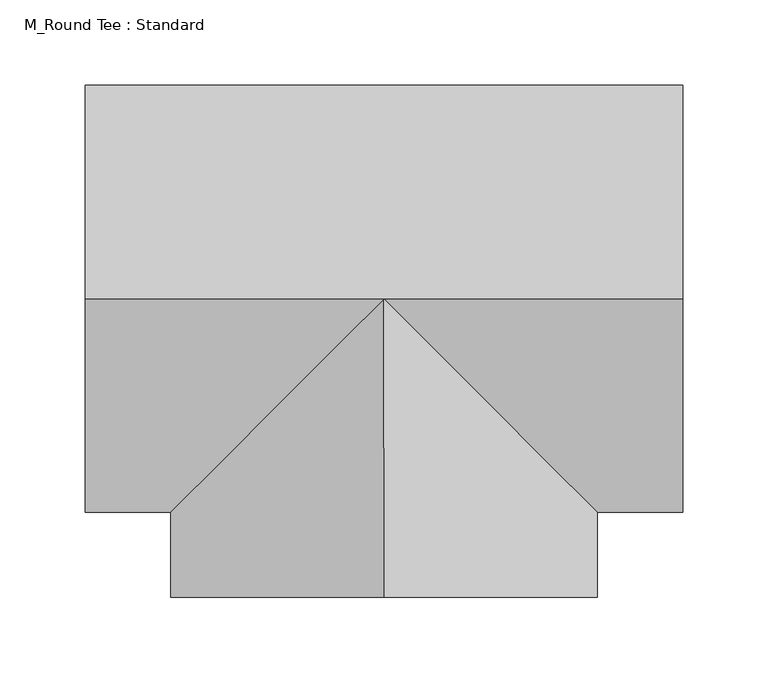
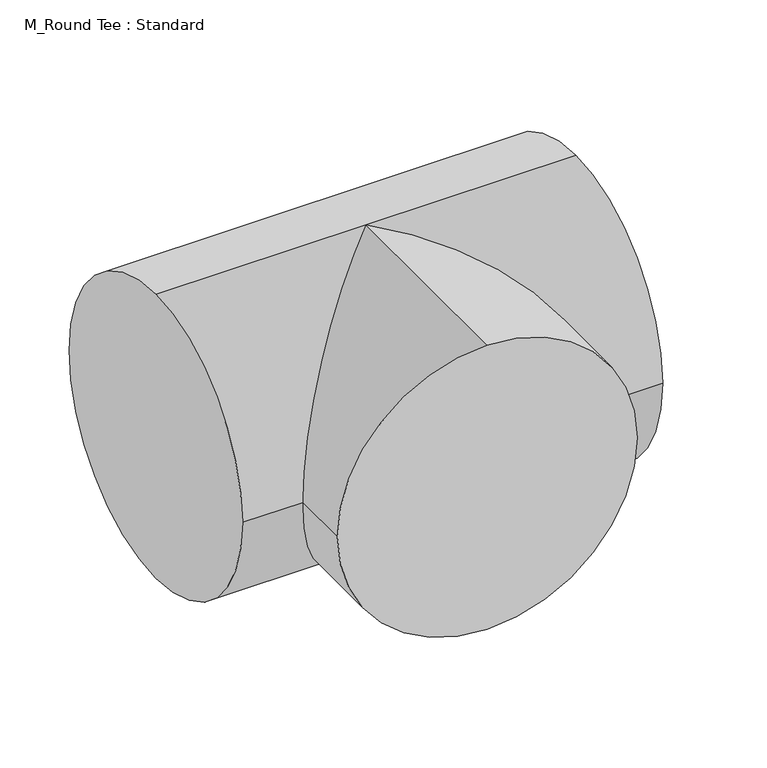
"""IFC4 building model written with IfcOpenShell, lengths in millimetres: duct fitting geometry, M_Round Tee : Standard."""

from ifc_helpers import new_model, si_unit, frame, origin, place, context, project, spatial, circle_curve, ellipse_curve, source, transform, mapped, element, save
from ifc_brep_helpers import plane_surface, cylinder_surface, advanced_brep


def m_round_tee_standard_11950e83(model_context):
    return source(origin(), model_context, "Body", "AdvancedBrep", [
        advanced_brep(
        [(-175.0, 0.0, 125.0), (-175.0, 125.0, 0.0), (-175.0, 0.0, -125.0), (-175.0, -125.0, 0.0), (175.0, 0.0, 125.0), (175.0, -125.0, 0.0), (175.0, 0.0, -125.0), (175.0, 125.0, 0.0), (0.0, 0.0, 125.0), (0.0, 0.0, -125.0), (-125.0, -125.0, 0.0), (125.0, -125.0, 0.0), (0.0, -175.0, 125.0), (-125.0, -175.0, 0.0), (0.0, -175.0, -125.0), (125.0, -175.0, 0.0)],
        [
            (0, 1, circle_curve(frame((-175.0, 0.0, 0.0), z_axis=(-1.0, 0.0, 0.0), x_axis=(0.0, 1.0, 0.0)), 125.0)),
            (1, 2, circle_curve(frame((-175.0, 0.0, 0.0), z_axis=(-1.0, 0.0, 0.0), x_axis=(0.0, 1.0, 0.0)), 125.0)),
            (2, 3, circle_curve(frame((-175.0, 0.0, 0.0), z_axis=(-1.0, 0.0, 0.0), x_axis=(0.0, 1.0, 0.0)), 125.0)),
            (3, 0, circle_curve(frame((-175.0, 0.0, 0.0), z_axis=(-1.0, 0.0, 0.0), x_axis=(0.0, 1.0, 0.0)), 125.0)),
            (4, 5, circle_curve(frame((175.0, 0.0, 0.0), z_axis=(1.0, 0.0, 0.0), x_axis=(0.0, 1.0, 0.0)), 125.0)),
            (5, 6, circle_curve(frame((175.0, 0.0, 0.0), z_axis=(1.0, 0.0, 0.0), x_axis=(0.0, 1.0, 0.0)), 125.0)),
            (6, 7, circle_curve(frame((175.0, 0.0, 0.0), z_axis=(1.0, 0.0, 0.0), x_axis=(0.0, 1.0, 0.0)), 125.0)),
            (7, 4, circle_curve(frame((175.0, 0.0, 0.0), z_axis=(1.0, 0.0, 0.0), x_axis=(0.0, 1.0, 0.0)), 125.0)),
            (0, 8),
            (8, 4),
            (7, 1),
            (6, 9),
            (9, 2),
            (9, 10, ellipse_curve(frame((0.0, 0.0, 0.0), z_axis=(-0.7071067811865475, 0.7071067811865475, 0.0), x_axis=(-0.7071067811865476, -0.7071067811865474, 0.0)), 176.7766953, 125.0)),
            (10, 3),
            (5, 11),
            (11, 9, ellipse_curve(frame((0.0, 0.0, 0.0), z_axis=(0.7071067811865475, 0.7071067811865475, 0.0), x_axis=(-0.7071067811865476, 0.7071067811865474, 0.0)), 176.7766953, 125.0)),
            (10, 8, ellipse_curve(frame((0.0, 0.0, 0.0), z_axis=(-0.7071067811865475, 0.7071067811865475, 0.0), x_axis=(-0.7071067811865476, -0.7071067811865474, 0.0)), 176.7766953, 125.0)),
            (8, 11, ellipse_curve(frame((0.0, 0.0, 0.0), z_axis=(0.7071067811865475, 0.7071067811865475, 0.0), x_axis=(-0.7071067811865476, 0.7071067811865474, 0.0)), 176.7766953, 125.0)),
            (12, 13, circle_curve(frame((0.0, -175.0, 0.0), z_axis=(0.0, -1.0, 0.0), x_axis=(1.0, 0.0, 0.0)), 125.0)),
            (13, 14, circle_curve(frame((0.0, -175.0, 0.0), z_axis=(0.0, -1.0, 0.0), x_axis=(1.0, 0.0, 0.0)), 125.0)),
            (14, 15, circle_curve(frame((0.0, -175.0, 0.0), z_axis=(0.0, -1.0, 0.0), x_axis=(1.0, 0.0, 0.0)), 125.0)),
            (15, 12, circle_curve(frame((0.0, -175.0, 0.0), z_axis=(0.0, -1.0, 0.0), x_axis=(1.0, 0.0, 0.0)), 125.0)),
            (15, 11),
            (8, 12),
            (14, 9),
            (13, 10),
        ],
        [
            plane_surface(frame((-175.0, 0.0, 0.0), z_axis=(-1.0, 0.0, 0.0), x_axis=(0.0, 0.0, 1.0))),
            plane_surface(frame((175.0, 0.0, 0.0), z_axis=(1.0, 0.0, 0.0), x_axis=(0.0, 0.0, 1.0))),
            cylinder_surface(frame((-175.0, 0.0, 0.0), z_axis=(-1.0, 0.0, 0.0), x_axis=(0.0, 1.0, 0.0)), 125.0),
            plane_surface(frame((0.0, -175.0, 0.0), z_axis=(0.0, -1.0, 0.0), x_axis=(0.0, 0.0, 1.0))),
            cylinder_surface(frame((0.0, 0.0, 0.0), z_axis=(0.0, 1.0, 0.0), x_axis=(1.0, 0.0, 0.0)), 125.0),
        ],
        [
            (0, [[1, 2, 3, 4]]),
            (1, [[5, 6, 7, 8]]),
            (2, [[-1, 9, 10, -8, 11]]),
            (2, [[-2, -11, -7, 12, 13]]),
            (2, [[-3, -13, 14, 15]]),
            (2, [[-6, 16, 17, -12]]),
            (2, [[-4, -15, 18, -9]]),
            (2, [[-5, -10, 19, -16]]),
            (3, [[20, 21, 22, 23]]),
            (4, [[-23, 24, -19, 25]]),
            (4, [[-22, 26, -17, -24]]),
            (4, [[-21, 27, -14, -26]]),
            (4, [[-20, -25, -18, -27]]),
        ],
    ),
        advanced_brep(
        [(-175.0, 0.0, 125.0), (-175.0, 125.0, 0.0), (-175.0, 0.0, -125.0), (-175.0, -125.0, 0.0), (175.0, 0.0, 125.0), (175.0, -125.0, 0.0), (175.0, 0.0, -125.0), (175.0, 125.0, 0.0), (0.0, 0.0, 125.0), (0.0, 0.0, -125.0), (-125.0, -125.0, 0.0), (125.0, -125.0, 0.0), (0.0, -175.0, 125.0), (-125.0, -175.0, 0.0), (0.0, -175.0, -125.0), (125.0, -175.0, 0.0)],
        [
            (0, 1, circle_curve(frame((-175.0, 0.0, 0.0), z_axis=(-1.0, 0.0, 0.0), x_axis=(0.0, 1.0, 0.0)), 125.0)),
            (1, 2, circle_curve(frame((-175.0, 0.0, 0.0), z_axis=(-1.0, 0.0, 0.0), x_axis=(0.0, 1.0, 0.0)), 125.0)),
            (2, 3, circle_curve(frame((-175.0, 0.0, 0.0), z_axis=(-1.0, 0.0, 0.0), x_axis=(0.0, 1.0, 0.0)), 125.0)),
            (3, 0, circle_curve(frame((-175.0, 0.0, 0.0), z_axis=(-1.0, 0.0, 0.0), x_axis=(0.0, 1.0, 0.0)), 125.0)),
            (4, 5, circle_curve(frame((175.0, 0.0, 0.0), z_axis=(1.0, 0.0, 0.0), x_axis=(0.0, 1.0, 0.0)), 125.0)),
            (5, 6, circle_curve(frame((175.0, 0.0, 0.0), z_axis=(1.0, 0.0, 0.0), x_axis=(0.0, 1.0, 0.0)), 125.0)),
            (6, 7, circle_curve(frame((175.0, 0.0, 0.0), z_axis=(1.0, 0.0, 0.0), x_axis=(0.0, 1.0, 0.0)), 125.0)),
            (7, 4, circle_curve(frame((175.0, 0.0, 0.0), z_axis=(1.0, 0.0, 0.0), x_axis=(0.0, 1.0, 0.0)), 125.0)),
            (0, 8),
            (8, 4),
            (7, 1),
            (6, 9),
            (9, 2),
            (9, 10, ellipse_curve(frame((0.0, 0.0, 0.0), z_axis=(-0.7071067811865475, 0.7071067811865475, 0.0), x_axis=(-0.7071067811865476, -0.7071067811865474, 0.0)), 176.7766953, 125.0)),
            (10, 3),
            (5, 11),
            (11, 9, ellipse_curve(frame((0.0, 0.0, 0.0), z_axis=(0.7071067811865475, 0.7071067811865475, 0.0), x_axis=(-0.7071067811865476, 0.7071067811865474, 0.0)), 176.7766953, 125.0)),
            (10, 8, ellipse_curve(frame((0.0, 0.0, 0.0), z_axis=(-0.7071067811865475, 0.7071067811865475, 0.0), x_axis=(-0.7071067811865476, -0.7071067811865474, 0.0)), 176.7766953, 125.0)),
            (8, 11, ellipse_curve(frame((0.0, 0.0, 0.0), z_axis=(0.7071067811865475, 0.7071067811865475, 0.0), x_axis=(-0.7071067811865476, 0.7071067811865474, 0.0)), 176.7766953, 125.0)),
            (12, 13, circle_curve(frame((0.0, -175.0, 0.0), z_axis=(0.0, -1.0, 0.0), x_axis=(1.0, 0.0, 0.0)), 125.0)),
            (13, 14, circle_curve(frame((0.0, -175.0, 0.0), z_axis=(0.0, -1.0, 0.0), x_axis=(1.0, 0.0, 0.0)), 125.0)),
            (14, 15, circle_curve(frame((0.0, -175.0, 0.0), z_axis=(0.0, -1.0, 0.0), x_axis=(1.0, 0.0, 0.0)), 125.0)),
            (15, 12, circle_curve(frame((0.0, -175.0, 0.0), z_axis=(0.0, -1.0, 0.0), x_axis=(1.0, 0.0, 0.0)), 125.0)),
            (15, 11),
            (8, 12),
            (14, 9),
            (13, 10),
        ],
        [
            plane_surface(frame((-175.0, 0.0, 0.0), z_axis=(-1.0, 0.0, 0.0), x_axis=(0.0, 0.0, 1.0))),
            plane_surface(frame((175.0, 0.0, 0.0), z_axis=(1.0, 0.0, 0.0), x_axis=(0.0, 0.0, 1.0))),
            cylinder_surface(frame((-175.0, 0.0, 0.0), z_axis=(-1.0, 0.0, 0.0), x_axis=(0.0, 1.0, 0.0)), 125.0),
            plane_surface(frame((0.0, -175.0, 0.0), z_axis=(0.0, -1.0, 0.0), x_axis=(0.0, 0.0, 1.0))),
            cylinder_surface(frame((0.0, 0.0, 0.0), z_axis=(0.0, 1.0, 0.0), x_axis=(1.0, 0.0, 0.0)), 125.0),
        ],
        [
            (0, [[1, 2, 3, 4]]),
            (1, [[5, 6, 7, 8]]),
            (2, [[-1, 9, 10, -8, 11]]),
            (2, [[-2, -11, -7, 12, 13]]),
            (2, [[-3, -13, 14, 15]]),
            (2, [[-6, 16, 17, -12]]),
            (2, [[-4, -15, 18, -9]]),
            (2, [[-5, -10, 19, -16]]),
            (3, [[20, 21, 22, 23]]),
            (4, [[-23, 24, -19, 25]]),
            (4, [[-22, 26, -17, -24]]),
            (4, [[-21, 27, -14, -26]]),
            (4, [[-20, -25, -18, -27]]),
        ],
    ),
        advanced_brep(
        [(0.0, -175.0, 125.0), (-125.0, -175.0, 0.0), (0.0, -175.0, -125.0), (125.0, -175.0, 0.0), (125.0, -125.0, 0.0), (0.0, 0.0, 125.0), (0.0, 0.0, -125.0), (-125.0, -125.0, 0.0), (-175.0, 0.0, 125.0), (-175.0, 125.0, 0.0), (-175.0, 0.0, -125.0), (-175.0, -125.0, 0.0), (175.0, 0.0, 125.0), (175.0, -125.0, 0.0), (175.0, 0.0, -125.0), (175.0, 125.0, 0.0)],
        [
            (0, 1, circle_curve(frame((0.0, -175.0, 0.0), z_axis=(0.0, -1.0, 0.0), x_axis=(1.0, 0.0, 0.0)), 125.0)),
            (1, 2, circle_curve(frame((0.0, -175.0, 0.0), z_axis=(0.0, -1.0, 0.0), x_axis=(1.0, 0.0, 0.0)), 125.0)),
            (2, 3, circle_curve(frame((0.0, -175.0, 0.0), z_axis=(0.0, -1.0, 0.0), x_axis=(1.0, 0.0, 0.0)), 125.0)),
            (3, 0, circle_curve(frame((0.0, -175.0, 0.0), z_axis=(0.0, -1.0, 0.0), x_axis=(1.0, 0.0, 0.0)), 125.0)),
            (3, 4),
            (4, 5, ellipse_curve(frame((0.0, 0.0, 0.0), z_axis=(-0.7071067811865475, -0.7071067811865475, 0.0), x_axis=(-0.7071067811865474, 0.7071067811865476, 0.0)), 176.7766953, 125.0)),
            (5, 0),
            (2, 6),
            (6, 4, ellipse_curve(frame((0.0, 0.0, 0.0), z_axis=(-0.7071067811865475, -0.7071067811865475, 0.0), x_axis=(-0.7071067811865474, 0.7071067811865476, 0.0)), 176.7766953, 125.0)),
            (1, 7),
            (7, 6, ellipse_curve(frame((0.0, 0.0, 0.0), z_axis=(0.7071067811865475, -0.7071067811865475, 0.0), x_axis=(0.7071067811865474, 0.7071067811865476, 0.0)), 176.7766953, 125.0)),
            (5, 7, ellipse_curve(frame((0.0, 0.0, 0.0), z_axis=(0.7071067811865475, -0.7071067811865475, 0.0), x_axis=(0.7071067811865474, 0.7071067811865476, 0.0)), 176.7766953, 125.0)),
            (8, 9, circle_curve(frame((-175.0, 0.0, 0.0), z_axis=(-1.0, 0.0, 0.0), x_axis=(0.0, 1.0, 0.0)), 125.0)),
            (9, 10, circle_curve(frame((-175.0, 0.0, 0.0), z_axis=(-1.0, 0.0, 0.0), x_axis=(0.0, 1.0, 0.0)), 125.0)),
            (10, 11, circle_curve(frame((-175.0, 0.0, 0.0), z_axis=(-1.0, 0.0, 0.0), x_axis=(0.0, 1.0, 0.0)), 125.0)),
            (11, 8, circle_curve(frame((-175.0, 0.0, 0.0), z_axis=(-1.0, 0.0, 0.0), x_axis=(0.0, 1.0, 0.0)), 125.0)),
            (12, 13, circle_curve(frame((175.0, 0.0, 0.0), z_axis=(1.0, 0.0, 0.0), x_axis=(0.0, 1.0, 0.0)), 125.0)),
            (13, 14, circle_curve(frame((175.0, 0.0, 0.0), z_axis=(1.0, 0.0, 0.0), x_axis=(0.0, 1.0, 0.0)), 125.0)),
            (14, 15, circle_curve(frame((175.0, 0.0, 0.0), z_axis=(1.0, 0.0, 0.0), x_axis=(0.0, 1.0, 0.0)), 125.0)),
            (15, 12, circle_curve(frame((175.0, 0.0, 0.0), z_axis=(1.0, 0.0, 0.0), x_axis=(0.0, 1.0, 0.0)), 125.0)),
            (8, 5),
            (5, 12),
            (15, 9),
            (14, 6),
            (6, 10),
            (7, 11),
            (13, 4),
        ],
        [
            plane_surface(frame((0.0, -175.0, 0.0), z_axis=(0.0, -1.0, 0.0), x_axis=(0.0, 0.0, 1.0))),
            cylinder_surface(frame((0.0, 0.0, 0.0), z_axis=(0.0, 1.0, 0.0), x_axis=(1.0, 0.0, 0.0)), 125.0),
            plane_surface(frame((-175.0, 0.0, 0.0), z_axis=(-1.0, 0.0, 0.0), x_axis=(0.0, 0.0, 1.0))),
            plane_surface(frame((175.0, 0.0, 0.0), z_axis=(1.0, 0.0, 0.0), x_axis=(0.0, 0.0, 1.0))),
            cylinder_surface(frame((-175.0, 0.0, 0.0), z_axis=(-1.0, 0.0, 0.0), x_axis=(0.0, 1.0, 0.0)), 125.0),
        ],
        [
            (0, [[1, 2, 3, 4]]),
            (1, [[-4, 5, 6, 7]]),
            (1, [[-3, 8, 9, -5]]),
            (1, [[-2, 10, 11, -8]]),
            (1, [[-1, -7, 12, -10]]),
            (2, [[13, 14, 15, 16]]),
            (3, [[17, 18, 19, 20]]),
            (4, [[-13, 21, 22, -20, 23]]),
            (4, [[-14, -23, -19, 24, 25]]),
            (4, [[-15, -25, -11, 26]]),
            (4, [[-18, 27, -9, -24]]),
            (4, [[-16, -26, -12, -21]]),
            (4, [[-17, -22, -6, -27]]),
        ],
    ),
    ])


if __name__ == "__main__":
    model = new_model("IFC4")
    model_context = context("Model", 3, world=origin())
    ifc_project = project(units=[si_unit("LENGTHUNIT", "METRE", prefix="MILLI")], contexts=[model_context])
    site = spatial("IfcSite", under=ifc_project)
    building = spatial("IfcBuilding", under=site)
    placement = place(None, origin())
    m_round_tee_standard_shape = m_round_tee_standard_11950e83(model_context)
    element("IfcDuctFitting", 1, ObjectType="M_Round Tee : Standard", at=placement, inside=building, context=model_context, shape_type="MappedRepresentation", body=[
        mapped(m_round_tee_standard_shape, transform((0.0, 0.0, 0.0), x_axis=(1.0, 0.0, 0.0), y_axis=(0.0, 1.0, 0.0), z_axis=(0.0, 0.0, 1.0))),
    ])
    save(model, "model.ifc")
